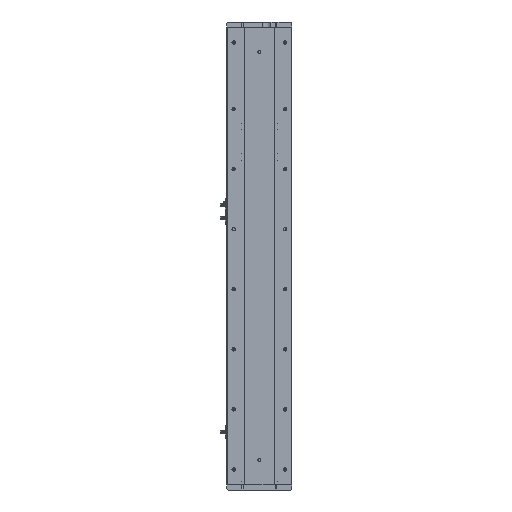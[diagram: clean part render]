
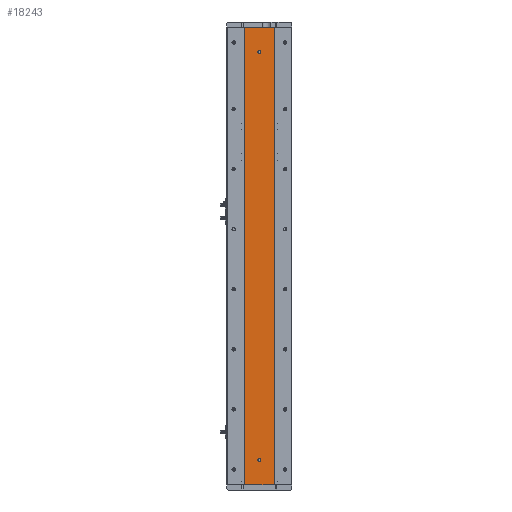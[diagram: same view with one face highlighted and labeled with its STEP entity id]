
A CAD part, left-side view. The second image highlights one B-rep face of the part: STEP entity #18243.
In plain terms, the highlighted planar face has unit normal (-1, 0, 0).
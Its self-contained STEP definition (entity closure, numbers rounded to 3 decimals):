
#607 = DIRECTION ( 'NONE',  ( 0., 0., -1. ) ) ;
#827 = VERTEX_POINT ( 'NONE', #13240 ) ;
#995 = VECTOR ( 'NONE', #23347, 1000. ) ;
#1173 = ORIENTED_EDGE ( 'NONE', *, *, #26036, .F. ) ;
#1431 = ORIENTED_EDGE ( 'NONE', *, *, #33162, .F. ) ;
#1767 = ORIENTED_EDGE ( 'NONE', *, *, #24516, .T. ) ;
#1832 = LINE ( 'NONE', #1872, #995 ) ;
#1872 = CARTESIAN_POINT ( 'NONE',  ( -24.994, -29.785, 915. ) ) ;
#1904 = EDGE_CURVE ( 'NONE', #29062, #21006, #19103, .T. ) ;
#2309 = CARTESIAN_POINT ( 'NONE',  ( -24.994, 0., 865. ) ) ;
#5020 = DIRECTION ( 'NONE',  ( 0., 0., 1. ) ) ;
#5071 = CARTESIAN_POINT ( 'NONE',  ( -24.994, -29.785, 915. ) ) ;
#6412 = DIRECTION ( 'NONE',  ( -1., 0., 0. ) ) ;
#6638 = CARTESIAN_POINT ( 'NONE',  ( -24.994, 0., 868. ) ) ;
#7263 = ORIENTED_EDGE ( 'NONE', *, *, #8860, .T. ) ;
#7693 = AXIS2_PLACEMENT_3D ( 'NONE', #32807, #16721, #607 ) ;
#7779 = EDGE_CURVE ( 'NONE', #16097, #20447, #27878, .T. ) ;
#7819 = VERTEX_POINT ( 'NONE', #27265 ) ;
#8572 = VERTEX_POINT ( 'NONE', #6638 ) ;
#8860 = EDGE_CURVE ( 'NONE', #827, #7819, #23406, .T. ) ;
#9070 = CIRCLE ( 'NONE', #14511, 3. ) ;
#9361 = AXIS2_PLACEMENT_3D ( 'NONE', #12444, #31209, #15124 ) ;
#11451 = FACE_BOUND ( 'NONE', #24228, .T. ) ;
#12444 = CARTESIAN_POINT ( 'NONE',  ( -24.994, 0., 50. ) ) ;
#13014 = CARTESIAN_POINT ( 'NONE',  ( -24.994, 0., 47. ) ) ;
#13240 = CARTESIAN_POINT ( 'NONE',  ( -24.994, 29.785, 0. ) ) ;
#13338 = CARTESIAN_POINT ( 'NONE',  ( -24.994, 29.785, 0. ) ) ;
#13693 = DIRECTION ( 'NONE',  ( 0., -1., 0. ) ) ;
#13855 = EDGE_CURVE ( 'NONE', #21647, #8572, #9070, .T. ) ;
#14479 = VECTOR ( 'NONE', #13693, 1000. ) ;
#14497 = ORIENTED_EDGE ( 'NONE', *, *, #1904, .F. ) ;
#14511 = AXIS2_PLACEMENT_3D ( 'NONE', #31004, #14915, #33713 ) ;
#14613 = VECTOR ( 'NONE', #16048, 1000. ) ;
#14915 = DIRECTION ( 'NONE',  ( -1., 0., 0. ) ) ;
#14992 = AXIS2_PLACEMENT_3D ( 'NONE', #2309, #21031, #5020 ) ;
#15124 = DIRECTION ( 'NONE',  ( 0., 0., 1. ) ) ;
#16048 = DIRECTION ( 'NONE',  ( 0., -1., 0. ) ) ;
#16097 = VERTEX_POINT ( 'NONE', #18148 ) ;
#16592 = PLANE ( 'NONE',  #7693 ) ;
#16721 = DIRECTION ( 'NONE',  ( 1., 0., 0. ) ) ;
#17089 = EDGE_CURVE ( 'NONE', #21006, #29062, #18826, .T. ) ;
#18148 = CARTESIAN_POINT ( 'NONE',  ( -24.994, 29.785, 915. ) ) ;
#18243 = ADVANCED_FACE ( 'NONE', ( #32031, #11451, #24861 ), #16592, .F. ) ;
#18826 = CIRCLE ( 'NONE', #26771, 3. ) ;
#19103 = CIRCLE ( 'NONE', #9361, 3. ) ;
#20447 = VERTEX_POINT ( 'NONE', #5071 ) ;
#21006 = VERTEX_POINT ( 'NONE', #13014 ) ;
#21031 = DIRECTION ( 'NONE',  ( -1., 0., 0. ) ) ;
#21647 = VERTEX_POINT ( 'NONE', #29715 ) ;
#21938 = CIRCLE ( 'NONE', #14992, 3. ) ;
#22477 = ORIENTED_EDGE ( 'NONE', *, *, #13855, .F. ) ;
#22492 = CARTESIAN_POINT ( 'NONE',  ( -24.994, 0., 50. ) ) ;
#23013 = CARTESIAN_POINT ( 'NONE',  ( -24.994, 29.785, 915. ) ) ;
#23347 = DIRECTION ( 'NONE',  ( 0., 0., -1. ) ) ;
#23406 = LINE ( 'NONE', #13338, #14613 ) ;
#24228 = EDGE_LOOP ( 'NONE', ( #14497, #30327 ) ) ;
#24516 = EDGE_CURVE ( 'NONE', #16097, #827, #25631, .T. ) ;
#24861 = FACE_OUTER_BOUND ( 'NONE', #27883, .T. ) ;
#25182 = DIRECTION ( 'NONE',  ( 0., 0., 1. ) ) ;
#25631 = LINE ( 'NONE', #23013, #32833 ) ;
#26036 = EDGE_CURVE ( 'NONE', #20447, #7819, #1832, .T. ) ;
#26771 = AXIS2_PLACEMENT_3D ( 'NONE', #22492, #6412, #25182 ) ;
#27265 = CARTESIAN_POINT ( 'NONE',  ( -24.994, -29.785, 0. ) ) ;
#27671 = ORIENTED_EDGE ( 'NONE', *, *, #7779, .F. ) ;
#27878 = LINE ( 'NONE', #29783, #14479 ) ;
#27883 = EDGE_LOOP ( 'NONE', ( #7263, #1173, #27671, #1767 ) ) ;
#28292 = DIRECTION ( 'NONE',  ( 0., 0., -1. ) ) ;
#28557 = EDGE_LOOP ( 'NONE', ( #1431, #22477 ) ) ;
#29062 = VERTEX_POINT ( 'NONE', #32235 ) ;
#29715 = CARTESIAN_POINT ( 'NONE',  ( -24.994, 0., 862. ) ) ;
#29783 = CARTESIAN_POINT ( 'NONE',  ( -24.994, 29.785, 915. ) ) ;
#30327 = ORIENTED_EDGE ( 'NONE', *, *, #17089, .F. ) ;
#31004 = CARTESIAN_POINT ( 'NONE',  ( -24.994, 0., 865. ) ) ;
#31209 = DIRECTION ( 'NONE',  ( -1., 0., 0. ) ) ;
#32031 = FACE_BOUND ( 'NONE', #28557, .T. ) ;
#32235 = CARTESIAN_POINT ( 'NONE',  ( -24.994, 0., 53. ) ) ;
#32807 = CARTESIAN_POINT ( 'NONE',  ( -24.994, 29.785, 915. ) ) ;
#32833 = VECTOR ( 'NONE', #28292, 1000. ) ;
#33162 = EDGE_CURVE ( 'NONE', #8572, #21647, #21938, .T. ) ;
#33713 = DIRECTION ( 'NONE',  ( 0., 0., 1. ) ) ;
